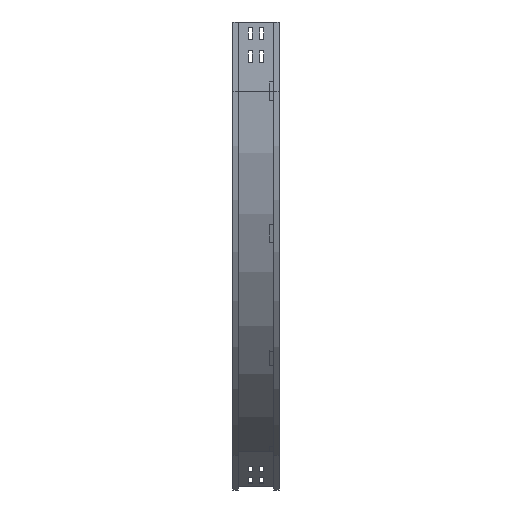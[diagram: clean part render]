
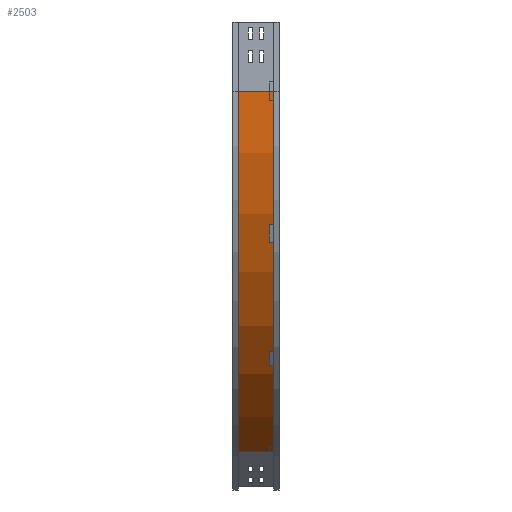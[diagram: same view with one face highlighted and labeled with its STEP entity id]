
A CAD part, left-side view. The second image highlights one B-rep face of the part: STEP entity #2503.
In plain terms, the highlighted cylindrical face has radius 900 mm (diameter 1800 mm), a partial arc.
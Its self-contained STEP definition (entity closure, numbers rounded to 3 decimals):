
#31 = VECTOR ( 'NONE', #1165, 1000. ) ;
#293 = DIRECTION ( 'NONE',  ( -1., 0., 0. ) ) ;
#344 = DIRECTION ( 'NONE',  ( 0., 0., -1. ) ) ;
#365 = DIRECTION ( 'NONE',  ( 0., -1., 0. ) ) ;
#402 = VERTEX_POINT ( 'NONE', #1207 ) ;
#446 = VERTEX_POINT ( 'NONE', #3276 ) ;
#491 = CIRCLE ( 'NONE', #1595, 900. ) ;
#732 = EDGE_CURVE ( 'NONE', #3912, #3484, #4324, .T. ) ;
#858 = CARTESIAN_POINT ( 'NONE',  ( 459., 12., -929.423 ) ) ;
#901 = DIRECTION ( 'NONE',  ( 0., -1., 0. ) ) ;
#975 = ORIENTED_EDGE ( 'NONE', *, *, #732, .T. ) ;
#1037 = CARTESIAN_POINT ( 'NONE',  ( 909., 88., -150. ) ) ;
#1165 = DIRECTION ( 'NONE',  ( 0., -1., 0. ) ) ;
#1207 = CARTESIAN_POINT ( 'NONE',  ( 9., 88., -150. ) ) ;
#1552 = CIRCLE ( 'NONE', #2270, 900. ) ;
#1595 = AXIS2_PLACEMENT_3D ( 'NONE', #3354, #901, #3333 ) ;
#1783 = EDGE_CURVE ( 'NONE', #402, #3912, #1552, .T. ) ;
#2177 = CARTESIAN_POINT ( 'NONE',  ( 459., 88., -929.423 ) ) ;
#2190 = EDGE_LOOP ( 'NONE', ( #3452, #2287, #3675, #975 ) ) ;
#2270 = AXIS2_PLACEMENT_3D ( 'NONE', #1037, #365, #293 ) ;
#2287 = ORIENTED_EDGE ( 'NONE', *, *, #2702, .F. ) ;
#2483 = FACE_OUTER_BOUND ( 'NONE', #2190, .T. ) ;
#2503 = ADVANCED_FACE ( 'NONE', ( #2483 ), #2737, .T. ) ;
#2548 = VECTOR ( 'NONE', #2611, 1000. ) ;
#2611 = DIRECTION ( 'NONE',  ( 0., -1., 0. ) ) ;
#2651 = AXIS2_PLACEMENT_3D ( 'NONE', #4126, #3457, #344 ) ;
#2702 = EDGE_CURVE ( 'NONE', #402, #446, #2902, .T. ) ;
#2737 = CYLINDRICAL_SURFACE ( 'NONE', #2651, 900. ) ;
#2902 = LINE ( 'NONE', #4287, #31 ) ;
#3276 = CARTESIAN_POINT ( 'NONE',  ( 9., 12., -150. ) ) ;
#3333 = DIRECTION ( 'NONE',  ( -1., 0., 0. ) ) ;
#3354 = CARTESIAN_POINT ( 'NONE',  ( 909., 12., -150. ) ) ;
#3452 = ORIENTED_EDGE ( 'NONE', *, *, #4074, .F. ) ;
#3457 = DIRECTION ( 'NONE',  ( 0., -1., 0. ) ) ;
#3484 = VERTEX_POINT ( 'NONE', #4213 ) ;
#3675 = ORIENTED_EDGE ( 'NONE', *, *, #1783, .T. ) ;
#3912 = VERTEX_POINT ( 'NONE', #2177 ) ;
#4074 = EDGE_CURVE ( 'NONE', #446, #3484, #491, .T. ) ;
#4126 = CARTESIAN_POINT ( 'NONE',  ( 909., 0., -150. ) ) ;
#4213 = CARTESIAN_POINT ( 'NONE',  ( 459., 12., -929.423 ) ) ;
#4287 = CARTESIAN_POINT ( 'NONE',  ( 9., 12., -150. ) ) ;
#4324 = LINE ( 'NONE', #858, #2548 ) ;
